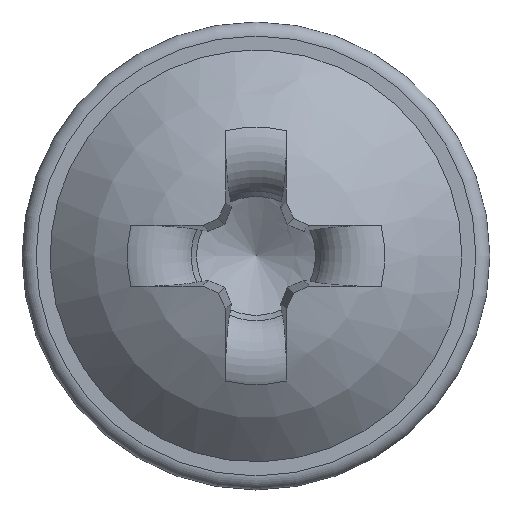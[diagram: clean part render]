
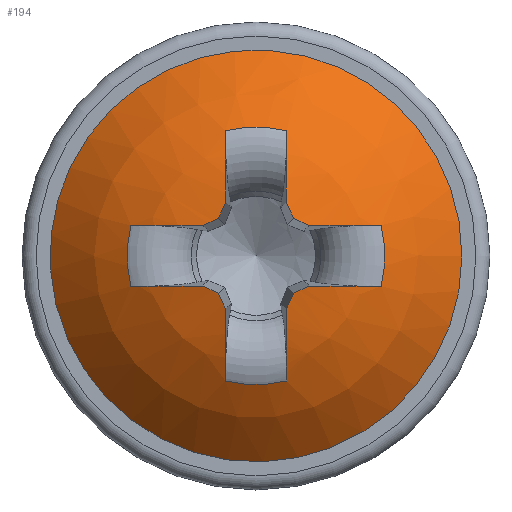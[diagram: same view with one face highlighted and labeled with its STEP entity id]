
A CAD part, top view. The second image highlights one B-rep face of the part: STEP entity #194.
In plain terms, the highlighted spherical face has radius 2.92 mm.
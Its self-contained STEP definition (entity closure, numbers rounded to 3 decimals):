
#130=SPHERICAL_SURFACE('',#1025,2.92);
#194=ADVANCED_FACE('',(#337,#338),#130,.T.);
#337=FACE_BOUND('',#359,.T.);
#338=FACE_BOUND('',#360,.T.);
#359=EDGE_LOOP('',(#447));
#360=EDGE_LOOP('',(#448,#449,#450,#451,#452,#453,#454,#455,#456,#457,#458,
#459,#460,#461,#462,#463,#464,#465,#466,#467));
#447=ORIENTED_EDGE('',*,*,#833,.T.);
#448=ORIENTED_EDGE('',*,*,#834,.F.);
#449=ORIENTED_EDGE('',*,*,#835,.T.);
#450=ORIENTED_EDGE('',*,*,#836,.F.);
#451=ORIENTED_EDGE('',*,*,#837,.F.);
#452=ORIENTED_EDGE('',*,*,#838,.F.);
#453=ORIENTED_EDGE('',*,*,#839,.F.);
#454=ORIENTED_EDGE('',*,*,#840,.T.);
#455=ORIENTED_EDGE('',*,*,#841,.F.);
#456=ORIENTED_EDGE('',*,*,#842,.F.);
#457=ORIENTED_EDGE('',*,*,#843,.F.);
#458=ORIENTED_EDGE('',*,*,#844,.F.);
#459=ORIENTED_EDGE('',*,*,#845,.T.);
#460=ORIENTED_EDGE('',*,*,#846,.F.);
#461=ORIENTED_EDGE('',*,*,#847,.F.);
#462=ORIENTED_EDGE('',*,*,#848,.F.);
#463=ORIENTED_EDGE('',*,*,#849,.F.);
#464=ORIENTED_EDGE('',*,*,#850,.T.);
#465=ORIENTED_EDGE('',*,*,#851,.F.);
#466=ORIENTED_EDGE('',*,*,#852,.F.);
#467=ORIENTED_EDGE('',*,*,#853,.F.);
#733=VERTEX_POINT('',#1776);
#734=VERTEX_POINT('',#1778);
#735=VERTEX_POINT('',#1779);
#736=VERTEX_POINT('',#1781);
#737=VERTEX_POINT('',#1783);
#738=VERTEX_POINT('',#1785);
#739=VERTEX_POINT('',#1787);
#740=VERTEX_POINT('',#1789);
#741=VERTEX_POINT('',#1791);
#742=VERTEX_POINT('',#1793);
#743=VERTEX_POINT('',#1795);
#744=VERTEX_POINT('',#1797);
#745=VERTEX_POINT('',#1799);
#746=VERTEX_POINT('',#1801);
#747=VERTEX_POINT('',#1803);
#748=VERTEX_POINT('',#1805);
#749=VERTEX_POINT('',#1807);
#750=VERTEX_POINT('',#1809);
#751=VERTEX_POINT('',#1811);
#752=VERTEX_POINT('',#1813);
#753=VERTEX_POINT('',#1815);
#833=EDGE_CURVE('',#733,#733,#960,.T.);
#834=EDGE_CURVE('',#734,#735,#961,.T.);
#835=EDGE_CURVE('',#734,#736,#962,.T.);
#836=EDGE_CURVE('',#737,#736,#963,.T.);
#837=EDGE_CURVE('',#738,#737,#964,.T.);
#838=EDGE_CURVE('',#739,#738,#965,.T.);
#839=EDGE_CURVE('',#740,#739,#966,.T.);
#840=EDGE_CURVE('',#740,#741,#967,.T.);
#841=EDGE_CURVE('',#742,#741,#968,.T.);
#842=EDGE_CURVE('',#743,#742,#969,.T.);
#843=EDGE_CURVE('',#744,#743,#970,.T.);
#844=EDGE_CURVE('',#745,#744,#971,.T.);
#845=EDGE_CURVE('',#745,#746,#972,.T.);
#846=EDGE_CURVE('',#747,#746,#973,.T.);
#847=EDGE_CURVE('',#748,#747,#974,.T.);
#848=EDGE_CURVE('',#749,#748,#975,.T.);
#849=EDGE_CURVE('',#750,#749,#976,.T.);
#850=EDGE_CURVE('',#750,#751,#977,.T.);
#851=EDGE_CURVE('',#752,#751,#978,.T.);
#852=EDGE_CURVE('',#753,#752,#979,.T.);
#853=EDGE_CURVE('',#735,#753,#980,.T.);
#960=CIRCLE('',#1004,2.2);
#961=CIRCLE('',#1005,2.92);
#962=CIRCLE('',#1006,1.377);
#963=CIRCLE('',#1007,2.92);
#964=CIRCLE('',#1008,2.915);
#965=CIRCLE('',#1009,2.915);
#966=CIRCLE('',#1010,2.92);
#967=CIRCLE('',#1011,1.377);
#968=CIRCLE('',#1012,2.92);
#969=CIRCLE('',#1013,2.915);
#970=CIRCLE('',#1014,2.915);
#971=CIRCLE('',#1015,2.92);
#972=CIRCLE('',#1016,1.377);
#973=CIRCLE('',#1017,2.92);
#974=CIRCLE('',#1018,2.915);
#975=CIRCLE('',#1019,2.915);
#976=CIRCLE('',#1020,2.92);
#977=CIRCLE('',#1021,1.377);
#978=CIRCLE('',#1022,2.92);
#979=CIRCLE('',#1023,2.915);
#980=CIRCLE('',#1024,2.915);
#1004=AXIS2_PLACEMENT_3D('',#1775,#1092,#1093);
#1005=AXIS2_PLACEMENT_3D('',#1777,#1094,#1095);
#1006=AXIS2_PLACEMENT_3D('',#1780,#1096,#1097);
#1007=AXIS2_PLACEMENT_3D('',#1782,#1098,#1099);
#1008=AXIS2_PLACEMENT_3D('',#1784,#1100,#1101);
#1009=AXIS2_PLACEMENT_3D('',#1786,#1102,#1103);
#1010=AXIS2_PLACEMENT_3D('',#1788,#1104,#1105);
#1011=AXIS2_PLACEMENT_3D('',#1790,#1106,#1107);
#1012=AXIS2_PLACEMENT_3D('',#1792,#1108,#1109);
#1013=AXIS2_PLACEMENT_3D('',#1794,#1110,#1111);
#1014=AXIS2_PLACEMENT_3D('',#1796,#1112,#1113);
#1015=AXIS2_PLACEMENT_3D('',#1798,#1114,#1115);
#1016=AXIS2_PLACEMENT_3D('',#1800,#1116,#1117);
#1017=AXIS2_PLACEMENT_3D('',#1802,#1118,#1119);
#1018=AXIS2_PLACEMENT_3D('',#1804,#1120,#1121);
#1019=AXIS2_PLACEMENT_3D('',#1806,#1122,#1123);
#1020=AXIS2_PLACEMENT_3D('',#1808,#1124,#1125);
#1021=AXIS2_PLACEMENT_3D('',#1810,#1126,#1127);
#1022=AXIS2_PLACEMENT_3D('',#1812,#1128,#1129);
#1023=AXIS2_PLACEMENT_3D('',#1814,#1130,#1131);
#1024=AXIS2_PLACEMENT_3D('',#1816,#1132,#1133);
#1025=AXIS2_PLACEMENT_3D('',#1817,#1134,#1135);
#1092=DIRECTION('',(0.,0.,1.));
#1093=DIRECTION('',(1.,0.,0.));
#1094=DIRECTION('',(-0.996,-0.035,0.087));
#1095=DIRECTION('',(0.087,0.,0.996));
#1096=DIRECTION('',(0.,0.,-1.));
#1097=DIRECTION('',(-1.,0.,0.));
#1098=DIRECTION('',(0.996,-0.035,0.087));
#1099=DIRECTION('',(0.087,0.,-0.996));
#1100=DIRECTION('',(0.907,0.404,0.122));
#1101=DIRECTION('',(-0.407,0.914,0.));
#1102=DIRECTION('',(0.404,0.907,0.122));
#1103=DIRECTION('',(-0.914,0.407,0.));
#1104=DIRECTION('',(-0.035,0.996,0.087));
#1105=DIRECTION('',(0.,-0.087,0.996));
#1106=DIRECTION('',(0.,0.,-1.));
#1107=DIRECTION('',(-1.,0.,0.));
#1108=DIRECTION('',(-0.035,-0.996,0.087));
#1109=DIRECTION('',(0.,-0.087,-0.996));
#1110=DIRECTION('',(0.404,-0.907,0.122));
#1111=DIRECTION('',(0.914,0.407,0.));
#1112=DIRECTION('',(0.907,-0.404,0.122));
#1113=DIRECTION('',(0.407,0.914,0.));
#1114=DIRECTION('',(0.996,0.035,0.087));
#1115=DIRECTION('',(0.087,0.,-0.996));
#1116=DIRECTION('',(0.,0.,-1.));
#1117=DIRECTION('',(-1.,0.,0.));
#1118=DIRECTION('',(-0.996,0.035,0.087));
#1119=DIRECTION('',(0.087,0.,0.996));
#1120=DIRECTION('',(-0.907,-0.404,0.122));
#1121=DIRECTION('',(0.407,-0.914,0.));
#1122=DIRECTION('',(-0.404,-0.907,0.122));
#1123=DIRECTION('',(0.914,-0.407,0.));
#1124=DIRECTION('',(0.035,-0.996,0.087));
#1125=DIRECTION('',(0.,-0.087,-0.996));
#1126=DIRECTION('',(0.,0.,-1.));
#1127=DIRECTION('',(-1.,0.,0.));
#1128=DIRECTION('',(0.035,0.996,0.087));
#1129=DIRECTION('',(0.,-0.087,0.996));
#1130=DIRECTION('',(-0.404,0.907,0.122));
#1131=DIRECTION('',(-0.914,-0.407,0.));
#1132=DIRECTION('',(-0.907,0.404,0.122));
#1133=DIRECTION('',(-0.407,-0.914,0.));
#1134=DIRECTION('',(0.,0.,1.));
#1135=DIRECTION('',(0.,1.,0.));
#1775=CARTESIAN_POINT('',(0.,0.,0.6));
#1776=CARTESIAN_POINT('',(2.2,0.,0.6));
#1777=CARTESIAN_POINT('',(0.053,0.002,-1.325));
#1778=CARTESIAN_POINT('',(0.326,-1.338,1.255));
#1779=CARTESIAN_POINT('',(0.323,-0.571,1.525));
#1780=CARTESIAN_POINT('',(0.,0.,1.255));
#1781=CARTESIAN_POINT('',(-0.326,-1.338,1.255));
#1782=CARTESIAN_POINT('',(-0.053,0.002,-1.325));
#1783=CARTESIAN_POINT('',(-0.323,-0.571,1.525));
#1784=CARTESIAN_POINT('',(-0.16,-0.071,-1.342));
#1785=CARTESIAN_POINT('',(-0.401,-0.401,1.544));
#1786=CARTESIAN_POINT('',(-0.071,-0.16,-1.342));
#1787=CARTESIAN_POINT('',(-0.571,-0.323,1.525));
#1788=CARTESIAN_POINT('',(0.002,-0.053,-1.325));
#1789=CARTESIAN_POINT('',(-1.338,-0.326,1.255));
#1790=CARTESIAN_POINT('',(0.,0.,1.255));
#1791=CARTESIAN_POINT('',(-1.338,0.326,1.255));
#1792=CARTESIAN_POINT('',(0.002,0.053,-1.325));
#1793=CARTESIAN_POINT('',(-0.571,0.323,1.525));
#1794=CARTESIAN_POINT('',(-0.071,0.16,-1.342));
#1795=CARTESIAN_POINT('',(-0.401,0.401,1.544));
#1796=CARTESIAN_POINT('',(-0.16,0.071,-1.342));
#1797=CARTESIAN_POINT('',(-0.323,0.571,1.525));
#1798=CARTESIAN_POINT('',(-0.053,-0.002,-1.325));
#1799=CARTESIAN_POINT('',(-0.326,1.338,1.255));
#1800=CARTESIAN_POINT('',(0.,0.,1.255));
#1801=CARTESIAN_POINT('',(0.326,1.338,1.255));
#1802=CARTESIAN_POINT('',(0.053,-0.002,-1.325));
#1803=CARTESIAN_POINT('',(0.323,0.571,1.525));
#1804=CARTESIAN_POINT('',(0.16,0.071,-1.342));
#1805=CARTESIAN_POINT('',(0.401,0.401,1.544));
#1806=CARTESIAN_POINT('',(0.071,0.16,-1.342));
#1807=CARTESIAN_POINT('',(0.571,0.323,1.525));
#1808=CARTESIAN_POINT('',(-0.002,0.053,-1.325));
#1809=CARTESIAN_POINT('',(1.338,0.326,1.255));
#1810=CARTESIAN_POINT('',(0.,0.,1.255));
#1811=CARTESIAN_POINT('',(1.338,-0.326,1.255));
#1812=CARTESIAN_POINT('',(-0.002,-0.053,-1.325));
#1813=CARTESIAN_POINT('',(0.571,-0.323,1.525));
#1814=CARTESIAN_POINT('',(0.071,-0.16,-1.342));
#1815=CARTESIAN_POINT('',(0.401,-0.401,1.544));
#1816=CARTESIAN_POINT('',(0.16,-0.071,-1.342));
#1817=CARTESIAN_POINT('',(0.,0.,-1.32));
